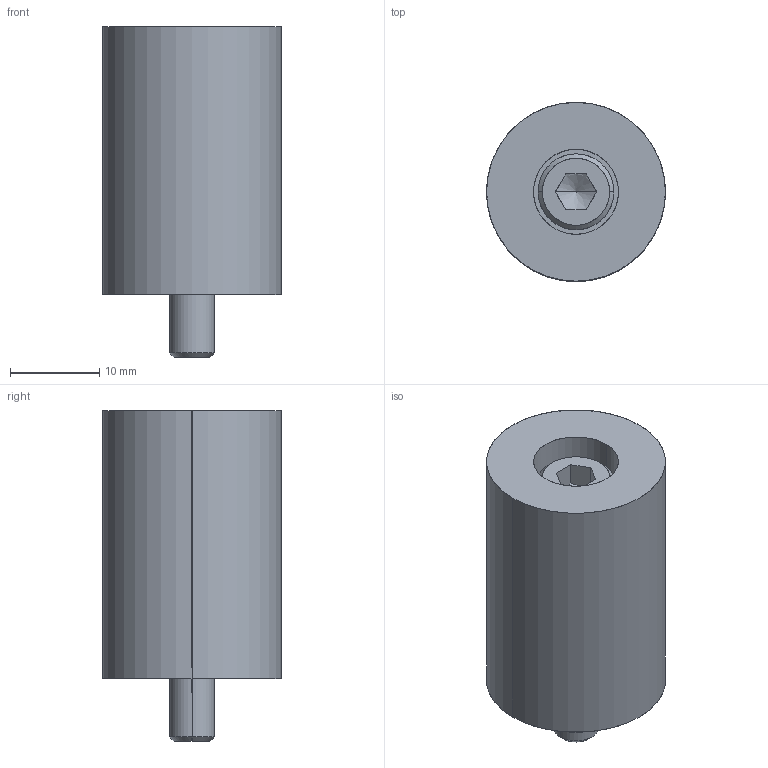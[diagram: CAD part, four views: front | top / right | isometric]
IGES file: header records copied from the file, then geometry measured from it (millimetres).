
Start section: SolidWorks IGES file using analytic representation for surfaces
Global section: file name: D:\Current\W1\TPD\c1\TPD20-30-1\TPD20-30-1.IGS; native system: SolidWorks 2017; preprocessor: SolidWorks 2017; author: Ravi Kalvai; date: 240605.183238; units: millimetre
Bounding box: 20 x 20 x 37 mm (x, y, z)
Surface area: 3815.9 mm2 (no closed solid volume)
Topology: 0 solids, 0 shells, 29 faces, 462 edges, 462 vertices
Faces by surface type: revolution 16, bspline 13
